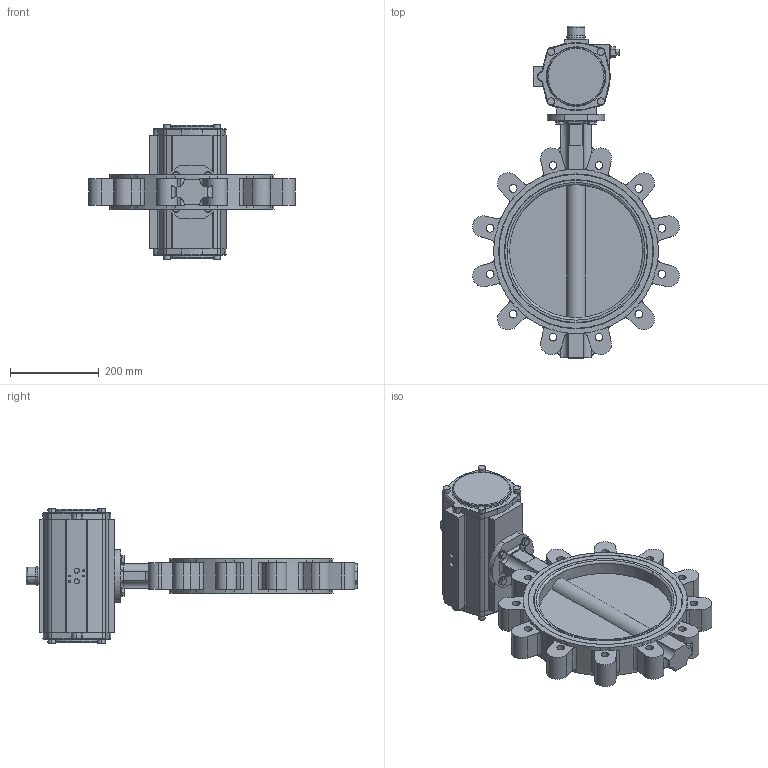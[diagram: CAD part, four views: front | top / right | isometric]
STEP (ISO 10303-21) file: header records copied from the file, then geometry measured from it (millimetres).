
FILE_DESCRIPTION (( 'STEP AP214' ), '1' );
FILE_NAME ('67717.step', '2020-10-26T07:28:08', ( '' ), ( '' ), 'SwSTEP 2.0', 'SolidWorks 2019', '' );
FILE_SCHEMA (( 'AUTOMOTIVE_DESIGN' ));
Length unit declared in the file: millimetre
Products named in the file (5): DA0500-V22_01; 67717; U-Scheibe DIN 125 A_M10; TL20-0300_M01; 6kt-Schr DIN 933_M10x30
Assembly tree (10 placements, depth 2):
  67717
    TL20-0300_M01
    DA0500-V22_01
    6kt-Schr DIN 933_M10x30  x4
    U-Scheibe DIN 125 A_M10  x4
Bounding box: 465.01 x 747 x 304 mm (x, y, z)
Volume: 13025292.1 mm3; surface area: 856322.2 mm2
Topology: 12 solids, 12 shells, 714 faces, 1791 edges, 1142 vertices
Faces by surface type: cylinder 329, plane 278, cone 49, torus 34, bspline 24
Entity records: 22986 total; most frequent: CARTESIAN_POINT 5090, DIRECTION 3467, ORIENTED_EDGE 3174, EDGE_CURVE 1587, AXIS2_PLACEMENT_3D 1373, VERTEX_POINT 1022, CIRCLE 769, VECTOR 721
